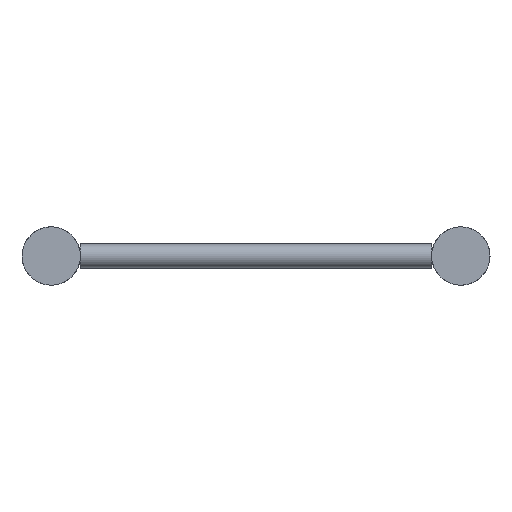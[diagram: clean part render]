
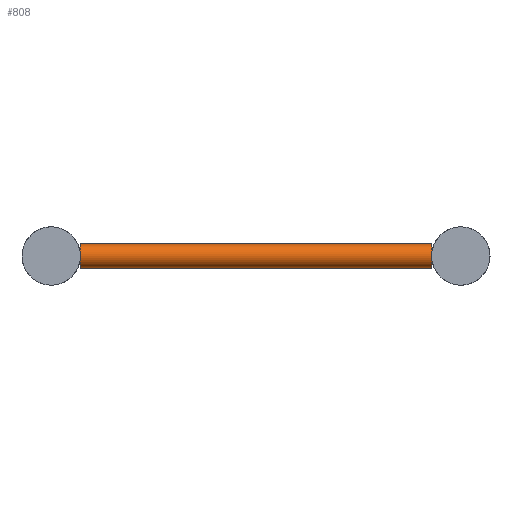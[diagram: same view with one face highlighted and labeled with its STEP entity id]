
A CAD part, left-side view. The second image highlights one B-rep face of the part: STEP entity #808.
In plain terms, the highlighted cylindrical face has radius 10 mm (diameter 20 mm), a full revolution.
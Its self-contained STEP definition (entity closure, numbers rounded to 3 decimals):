
#53=CIRCLE('',#906,10.);
#54=CIRCLE('',#908,10.);
#55=CIRCLE('',#910,10.);
#56=CIRCLE('',#912,10.);
#98=FACE_BOUND('',#272,.T.);
#146=CYLINDRICAL_SURFACE('',#911,10.);
#191=FACE_OUTER_BOUND('',#271,.T.);
#271=EDGE_LOOP('',(#556,#557));
#272=EDGE_LOOP('',(#558,#559));
#388=VERTEX_POINT('',#1299);
#389=VERTEX_POINT('',#1300);
#390=VERTEX_POINT('',#1304);
#391=VERTEX_POINT('',#1305);
#459=EDGE_CURVE('',#389,#388,#53,.T.);
#461=EDGE_CURVE('',#391,#390,#54,.T.);
#462=EDGE_CURVE('',#388,#389,#55,.T.);
#463=EDGE_CURVE('',#390,#391,#56,.T.);
#556=ORIENTED_EDGE('',*,*,#459,.T.);
#557=ORIENTED_EDGE('',*,*,#462,.T.);
#558=ORIENTED_EDGE('',*,*,#461,.T.);
#559=ORIENTED_EDGE('',*,*,#463,.T.);
#808=ADVANCED_FACE('',(#191,#98),#146,.T.);
#906=AXIS2_PLACEMENT_3D('',#1302,#1076,#1077);
#908=AXIS2_PLACEMENT_3D('',#1307,#1081,#1082);
#910=AXIS2_PLACEMENT_3D('',#1309,#1085,#1086);
#911=AXIS2_PLACEMENT_3D('',#1310,#1087,#1088);
#912=AXIS2_PLACEMENT_3D('',#1311,#1089,#1090);
#1076=DIRECTION('center_axis',(0.,1.,0.));
#1077=DIRECTION('ref_axis',(-1.,0.,0.));
#1081=DIRECTION('center_axis',(0.,-1.,0.));
#1082=DIRECTION('ref_axis',(-1.,0.,0.));
#1085=DIRECTION('center_axis',(0.,1.,0.));
#1086=DIRECTION('ref_axis',(-1.,0.,0.));
#1087=DIRECTION('center_axis',(0.,1.,0.));
#1088=DIRECTION('ref_axis',(-1.,0.,0.));
#1089=DIRECTION('center_axis',(0.,-1.,0.));
#1090=DIRECTION('ref_axis',(-1.,0.,0.));
#1299=CARTESIAN_POINT('',(50.,24.15,0.));
#1300=CARTESIAN_POINT('',(70.,24.15,0.));
#1302=CARTESIAN_POINT('Origin',(60.,24.15,0.));
#1304=CARTESIAN_POINT('',(50.,314.85,0.));
#1305=CARTESIAN_POINT('',(70.,314.85,0.));
#1307=CARTESIAN_POINT('Origin',(60.,314.85,0.));
#1309=CARTESIAN_POINT('Origin',(60.,24.15,0.));
#1310=CARTESIAN_POINT('Origin',(60.,169.5,0.));
#1311=CARTESIAN_POINT('Origin',(60.,314.85,0.));
